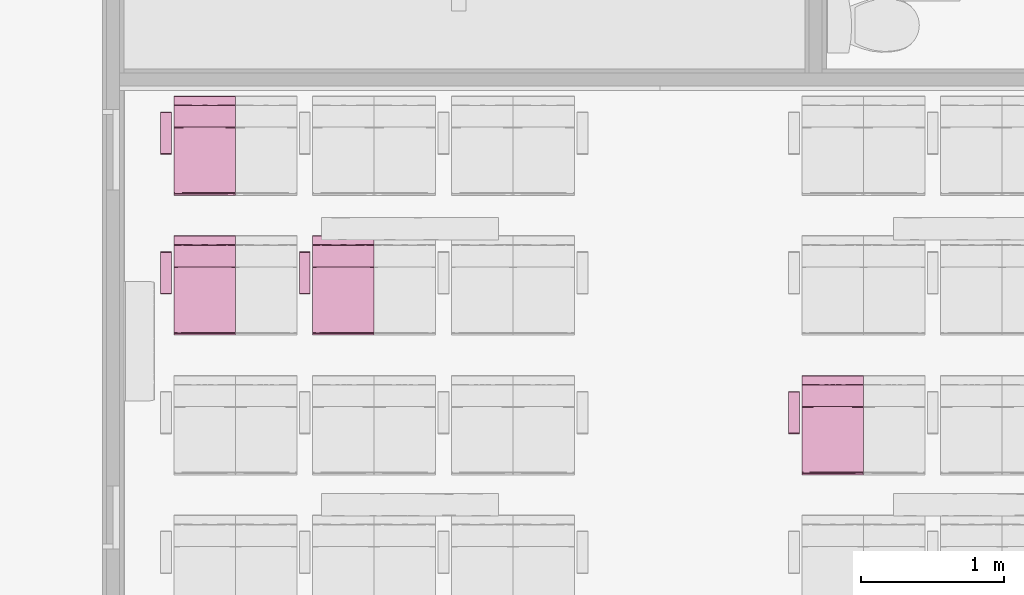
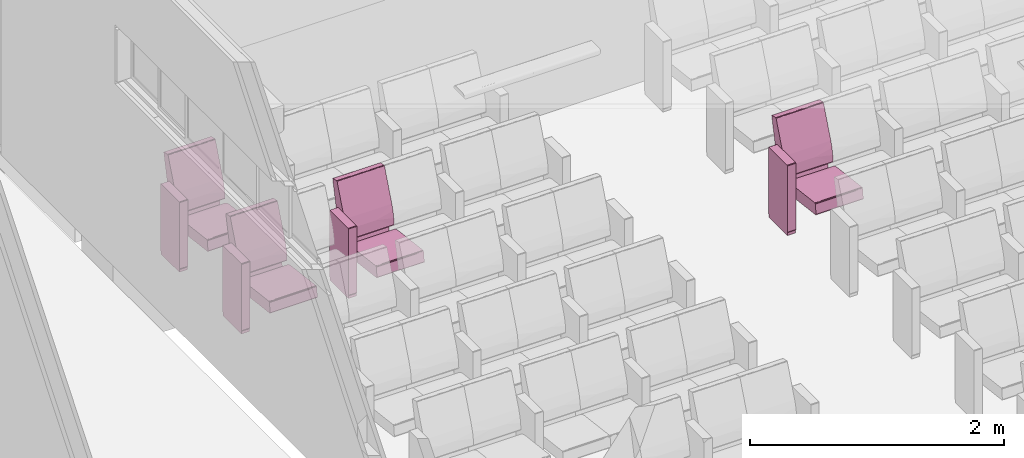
# One storey, part 115 of 155: 4 furnishings.
"""IFC2X3 building model written with IfcOpenShell, lengths in metres."""

from ifc_helpers import new_model, entity, si_unit, converted_unit, derived_unit, direction, frame, origin, place, context, subcontext, project, spatial, faceted_brep, source, transform, mapped, material, material_list, type_object, type_shapes, element, save


model = new_model("IFC2X3")

# Units and contexts
model_context = context("Model", 3, precision=1e-05, world=origin(), true_north=direction((6.12303176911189e-17, 1.0)))
body_context = subcontext(model_context, "Body", "Model", "MODEL_VIEW")
ifc_project = project(units=[si_unit("LENGTHUNIT", "METRE"), si_unit("AREAUNIT", "SQUARE_METRE"), si_unit("VOLUMEUNIT", "CUBIC_METRE"), converted_unit("PLANEANGLEUNIT", "DEGREE", entity("IfcRatioMeasure", 0.0174532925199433), si_unit("PLANEANGLEUNIT", "RADIAN"), dimensions=[0, 0, 0, 0, 0, 0, 0]), si_unit("MASSUNIT", "GRAM", prefix="KILO"), derived_unit("MASSDENSITYUNIT", [(si_unit("MASSUNIT", "GRAM", prefix="KILO"), 1), (si_unit("LENGTHUNIT", "METRE"), -3)]), si_unit("TIMEUNIT", "SECOND"), si_unit("FREQUENCYUNIT", "HERTZ"), si_unit("THERMODYNAMICTEMPERATUREUNIT", "DEGREE_CELSIUS"), derived_unit("THERMALTRANSMITTANCEUNIT", [(si_unit("MASSUNIT", "GRAM", prefix="KILO"), 1), (si_unit("THERMODYNAMICTEMPERATUREUNIT", "KELVIN"), -1), (si_unit("TIMEUNIT", "SECOND"), -3)]), derived_unit("VOLUMETRICFLOWRATEUNIT", [(si_unit("LENGTHUNIT", "METRE"), 3), (si_unit("TIMEUNIT", "SECOND"), -1)]), si_unit("ELECTRICCURRENTUNIT", "AMPERE"), si_unit("ELECTRICVOLTAGEUNIT", "VOLT"), si_unit("POWERUNIT", "WATT"), si_unit("FORCEUNIT", "NEWTON", prefix="KILO"), si_unit("ILLUMINANCEUNIT", "LUX"), si_unit("LUMINOUSFLUXUNIT", "LUMEN"), si_unit("LUMINOUSINTENSITYUNIT", "CANDELA"), derived_unit("USERDEFINED", [(si_unit("MASSUNIT", "GRAM", prefix="KILO"), -1), (si_unit("LENGTHUNIT", "METRE"), -2), (si_unit("TIMEUNIT", "SECOND"), 3), (si_unit("LUMINOUSFLUXUNIT", "LUMEN"), 1)]), derived_unit("LINEARVELOCITYUNIT", [(si_unit("LENGTHUNIT", "METRE"), 1), (si_unit("TIMEUNIT", "SECOND"), -1)]), si_unit("PRESSUREUNIT", "PASCAL"), derived_unit("USERDEFINED", [(si_unit("LENGTHUNIT", "METRE"), -2), (si_unit("MASSUNIT", "GRAM", prefix="KILO"), 1), (si_unit("TIMEUNIT", "SECOND"), -2)])], contexts=[model_context])

# Site, building, storey, space
site_placement = place(None, frame((26.9889013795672, -17.5624287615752, 0.0)))
site = spatial("IfcSite", under=ifc_project, at=site_placement, Name="Default", CompositionType="ELEMENT")
building_placement = place(site_placement, origin())
building = spatial("IfcBuilding", under=site, at=building_placement, Name="C. C. L. Monsenhor Antônio Sampaio", CompositionType="ELEMENT")
storey_placement = place(building_placement, frame((0.0, 0.0, 1.19999999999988)))
storey = spatial("IfcBuildingStorey", under=building, at=storey_placement, Name="Nível 1.2", CompositionType="ELEMENT", Elevation=1.19999999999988)
space_placement = place(storey_placement, origin())
space = spatial("IfcSpace", under=storey, at=space_placement, Name="94", CompositionType="ELEMENT", InteriorOrExteriorSpace="INTERNAL")

# Furnishings
ifc_material_1 = material(Name="V9 - V9 - Ecopelle_672_658")
ifc_material_2 = material(Name="V9 - V9 - RAL_9006_Grigio")
ifc_material_list_1 = material_list([ifc_material_1, ifc_material_2])
ifc_material_list_2 = material_list([ifc_material_1, ifc_material_2])
furniture_type = type_object("IfcFurnitureType", Name="Cadeira auditório", material=ifc_material_list_2)
shared_shape = source(origin(), body_context, "Body", "Brep", [
    faceted_brep([(0.405536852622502, 0.156348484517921, 0.339809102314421), (0.410560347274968, 0.131924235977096, 0.34246450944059), (0.405536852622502, 0.1075, 0.339809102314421), (0.405536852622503, 0.0537499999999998, 0.339809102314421), (0.410597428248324, 0.084060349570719, 0.342506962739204), (0.41079981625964, 0.0179166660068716, 0.342749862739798), (0.405536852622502, 0.215, 0.339809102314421), (0.410248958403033, 0.173608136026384, 0.342130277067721), (0.412515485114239, 0.185674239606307, 0.348529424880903), (0.412515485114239, 0.143333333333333, 0.348529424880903), (0.410560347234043, -0.131924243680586, 0.342464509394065), (0.405536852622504, -0.156348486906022, 0.33980910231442), (0.405536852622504, -0.1075, 0.33980910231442), (0.405536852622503, 0.0, 0.33980910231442), (0.41251548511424, 0.0, 0.348529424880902), (0.411170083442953, -0.0341365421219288, 0.343251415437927), (0.41059742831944, -0.0840603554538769, 0.342506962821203), (0.41251548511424, -0.143333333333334, 0.348529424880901), (0.412515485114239, 0.0358333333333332, 0.348529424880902), (0.412515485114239, 0.0716666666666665, 0.348529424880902), (0.405536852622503, -0.0537500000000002, 0.33980910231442), (0.412515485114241, -0.185674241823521, 0.348529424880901), (0.410799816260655, -0.215, 0.342749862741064), (0.410248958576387, -0.173608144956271, 0.342130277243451), (0.410799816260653, 0.215, 0.342749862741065), (0.412515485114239, 0.215, 0.348529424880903), (0.412515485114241, -0.215, 0.348529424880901), (0.41251548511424, -0.0716666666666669, 0.348529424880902), (0.405536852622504, -0.215, 0.33980910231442), (-0.0557900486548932, -0.215, 0.28268145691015), (-0.055790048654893, -0.168631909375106, 0.282681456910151), (-0.0557900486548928, -0.138065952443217, 0.282681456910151), (-0.0557900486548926, -0.107499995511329, 0.282681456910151), (-0.0557900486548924, -0.0806249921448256, 0.282681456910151), (-0.0557900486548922, -0.0537499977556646, 0.282681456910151), (-0.0557900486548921, -0.0268750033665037, 0.282681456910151), (-0.0557900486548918, 0.0, 0.28268145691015), (-0.0557900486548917, 0.0268749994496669, 0.282681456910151), (-0.0557900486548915, 0.0537499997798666, 0.282681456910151), (-0.0557900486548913, 0.0806250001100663, 0.282681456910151), (-0.0557900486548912, 0.107499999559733, 0.282681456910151), (-0.055790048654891, 0.134374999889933, 0.282681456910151), (-0.0557900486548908, 0.161250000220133, 0.282681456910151), (-0.0557900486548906, 0.1881249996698, 0.282681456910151), (-0.0557900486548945, 0.215, 0.28268145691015), (-0.0594787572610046, -0.0152829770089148, 0.283700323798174), (-0.0613666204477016, 0.0, 0.287029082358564), (-0.0594787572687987, 0.0179017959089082, 0.283700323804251), (-0.0613666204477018, 0.191815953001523, 0.287029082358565), (-0.0613666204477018, 0.215, 0.287029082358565), (-0.0594787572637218, 0.215, 0.283700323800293), (-0.0593340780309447, 0.0671874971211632, 0.283591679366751), (-0.0613666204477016, 0.030565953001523, 0.287029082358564), (-0.0594787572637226, -0.215, 0.283700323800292), (-0.0593337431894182, -0.184174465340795, 0.283591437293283), (-0.0613666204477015, -0.122263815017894, 0.287029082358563), (-0.0613666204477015, -0.0916978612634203, 0.287029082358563), (-0.0613666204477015, -0.0611319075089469, 0.287029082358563), (-0.0593023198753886, -0.0940625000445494, 0.283568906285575), (-0.059382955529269, 0.118123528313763, 0.28362747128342), (-0.0613666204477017, 0.122263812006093, 0.287029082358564), (-0.0597338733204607, 0.147039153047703, 0.283913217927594), (-0.0613666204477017, 0.168631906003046, 0.287029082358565), (-0.0592501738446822, 0.180223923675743, 0.283532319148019), (-0.0588783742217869, 0.0926899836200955, 0.283298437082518), (-0.0613666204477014, -0.215, 0.287029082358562), (-0.0613666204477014, -0.168631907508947, 0.287029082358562), (-0.0592576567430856, -0.123736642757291, 0.283537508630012), (-0.0594787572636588, -0.153348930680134, 0.283700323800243), (-0.0613666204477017, 0.0916978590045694, 0.287029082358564), (-0.0613666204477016, -0.0305659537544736, 0.287029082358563), (-0.059645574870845, -0.045848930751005, 0.283836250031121), (-0.0613666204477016, 0.0611319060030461, 0.287029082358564), (-0.069340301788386, -0.215, 0.351419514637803), (-0.0693403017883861, -0.143333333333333, 0.351419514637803), (-0.0693403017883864, -0.0716666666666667, 0.351419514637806), (-0.0693403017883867, 0.0, 0.351419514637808), (-0.069340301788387, 0.0716666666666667, 0.351419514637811), (-0.0693403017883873, 0.143333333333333, 0.351419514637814), (-0.0693403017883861, 0.215, 0.351419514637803), (-0.0597085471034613, 0.0, 0.37476954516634), (-0.0645543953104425, 0.112272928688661, 0.369803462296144), (-0.0653387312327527, 0.0126787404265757, 0.368680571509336), (-0.0681665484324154, -0.0888707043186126, 0.36292533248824), (-0.0655136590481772, -0.10440004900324, 0.368411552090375), (-0.0694879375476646, 0.0590582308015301, 0.356377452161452), (-0.0695056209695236, -0.125492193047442, 0.356093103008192), (-0.0597085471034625, -0.110316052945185, 0.374769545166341), (-0.0690003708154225, 0.132942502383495, 0.359900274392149), (-0.0672851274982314, 0.108066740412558, 0.365148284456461), (-0.0676206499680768, 0.215, 0.364371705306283), (-0.0686241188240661, 0.215, 0.356813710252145), (-0.0686241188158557, -0.214999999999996, 0.356813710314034), (-0.0686999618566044, 0.0358333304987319, 0.36116674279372), (-0.0694502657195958, -0.0358333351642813, 0.356863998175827), (-0.0676206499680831, -0.214999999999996, 0.364371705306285), (-0.0636645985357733, -0.214999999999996, 0.369570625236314), (-0.0597085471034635, -0.214999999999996, 0.374769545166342), (-0.0597085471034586, 0.215, 0.374769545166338), (-0.0636645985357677, 0.215, 0.36957062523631), (-0.0597085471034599, 0.110316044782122, 0.374769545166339), (-0.0324117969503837, 0.215, 0.390639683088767), (-0.0324117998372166, 0.0436847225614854, 0.39063968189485), (-0.0018793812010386, 0.215, 0.398686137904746), (-0.041847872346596, -0.0856576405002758, 0.386239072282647), (-0.0324117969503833, -0.215, 0.390639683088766), (-0.00187938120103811, -0.215, 0.398686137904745), (-0.00187938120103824, -0.102488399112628, 0.398686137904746), (-0.0219042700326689, -0.0570631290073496, 0.394412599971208), (-0.00187938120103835, 0.0, 0.398686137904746), (0.392202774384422, 0.215, 0.447486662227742), (0.392202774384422, -0.215, 0.447486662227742), (0.392202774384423, -0.156349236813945, 0.447486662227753), (0.392202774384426, -0.107499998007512, 0.447486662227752), (0.392202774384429, -0.0537500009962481, 0.44748666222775), (0.392202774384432, 0.0, 0.447486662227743), (0.392202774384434, 0.0537499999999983, 0.447486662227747), (0.392202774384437, 0.107499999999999, 0.447486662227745), (0.392202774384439, 0.156349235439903, 0.447486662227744), (0.398104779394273, -0.131924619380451, 0.445856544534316), (0.401125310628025, -0.0976984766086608, 0.440530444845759), (0.397860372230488, -0.0827732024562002, 0.446039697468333), (0.401125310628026, -0.215000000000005, 0.440530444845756), (0.401125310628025, -0.156349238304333, 0.440530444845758), (0.397373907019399, -0.173462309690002, 0.446363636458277), (0.398104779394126, -0.215000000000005, 0.445856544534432), (0.397860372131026, 0.0827731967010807, 0.446039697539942), (0.398104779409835, 0.131924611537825, 0.445856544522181), (0.398104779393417, -0.0237489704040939, 0.445856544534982), (0.398104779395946, 0.0268749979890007, 0.445856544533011), (0.401125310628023, 0.0488492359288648, 0.440530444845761), (0.401125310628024, -0.0488492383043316, 0.440530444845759), (0.398774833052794, 0.173462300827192, 0.445271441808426), (0.401125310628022, 0.097698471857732, 0.440530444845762), (0.401125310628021, 0.215, 0.440530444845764), (0.39810477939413, 0.215, 0.445856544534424), (0.401125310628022, 0.156349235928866, 0.440530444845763), (0.401125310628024, 0.0, 0.44053044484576)], [[[0, 1, 2]], [[3, 4, 5]], [[6, 7, 0]], [[7, 8, 9]], [[10, 11, 12]], [[3, 5, 13]], [[14, 15, 5]], [[16, 17, 10]], [[9, 1, 7]], [[18, 5, 4]], [[4, 9, 19, 18]], [[9, 4, 1]], [[2, 1, 4]], [[13, 15, 20]], [[21, 22, 23]], [[5, 18, 14]], [[24, 25, 8]], [[22, 21, 26]], [[24, 7, 6]], [[23, 11, 10]], [[20, 15, 16]], [[3, 2, 4]], [[14, 27, 15]], [[5, 15, 13]], [[27, 17, 16]], [[10, 12, 16]], [[21, 23, 17]], [[20, 16, 12]], [[15, 27, 16]], [[7, 1, 0]], [[28, 11, 23]], [[8, 7, 24]], [[23, 10, 17]], [[28, 23, 22]], [[28, 29, 30, 31, 32, 33, 34, 35, 36, 37, 38, 39, 40, 41, 42, 43, 44, 6, 0, 2, 3, 13, 20, 12, 11]], [[45, 46, 47]], [[48, 49, 50]], [[51, 47, 52]], [[29, 53, 54]], [[55, 56, 57, 58]], [[59, 60, 61]], [[61, 62, 63]], [[51, 64, 39]], [[65, 66, 54]], [[31, 67, 32]], [[45, 47, 38, 37, 36, 35]], [[68, 31, 30]], [[43, 50, 44]], [[63, 42, 61]], [[48, 50, 63]], [[64, 69, 59]], [[68, 54, 66]], [[63, 62, 48]], [[50, 43, 63]], [[67, 55, 58]], [[61, 42, 41]], [[45, 70, 46]], [[55, 68, 66]], [[71, 33, 58]], [[71, 57, 70]], [[41, 40, 59]], [[60, 62, 61]], [[71, 35, 34, 33]], [[35, 71, 45]], [[47, 46, 52]], [[45, 71, 70]], [[58, 57, 71]], [[32, 58, 33]], [[31, 68, 67]], [[54, 68, 30]], [[29, 54, 30]], [[54, 53, 65]], [[55, 67, 68]], [[32, 67, 58]], [[51, 52, 72, 69]], [[43, 42, 63]], [[41, 59, 61]], [[47, 51, 38]], [[40, 39, 64]], [[38, 51, 39]], [[69, 60, 59]], [[69, 64, 51]], [[40, 64, 59]], [[65, 73, 74, 75, 76, 77, 78, 79, 49, 48, 62, 60, 69, 72, 52, 46, 70, 57, 56, 55, 66]], [[80, 81, 82]], [[82, 83, 84]], [[78, 77, 76, 85]], [[86, 75, 74]], [[84, 80, 82]], [[80, 84, 87]], [[88, 89, 90]], [[91, 79, 78]], [[74, 73, 92]], [[85, 88, 91]], [[81, 89, 82]], [[93, 94, 83]], [[94, 86, 83]], [[85, 76, 94]], [[92, 86, 74]], [[85, 94, 93]], [[83, 92, 95]], [[75, 94, 76]], [[93, 83, 82]], [[95, 96, 84]], [[88, 85, 93]], [[96, 97, 87]], [[98, 99, 100]], [[78, 85, 91]], [[89, 88, 93]], [[90, 91, 88]], [[93, 82, 89]], [[81, 99, 89]], [[99, 90, 89]], [[100, 81, 80]], [[100, 99, 81]], [[83, 86, 92]], [[75, 86, 94]], [[95, 84, 83]], [[87, 84, 96]], [[101, 102, 103]], [[104, 80, 87, 97]], [[105, 106, 107]], [[107, 108, 105]], [[103, 102, 109]], [[104, 102, 80]], [[104, 108, 102]], [[98, 102, 101]], [[105, 104, 97]], [[105, 108, 104]], [[102, 98, 100, 80]], [[109, 108, 107]], [[109, 102, 108]], [[110, 103, 109, 107, 106, 111, 112, 113, 114, 115, 116, 117, 118]], [[119, 120, 121]], [[122, 123, 124]], [[111, 125, 124]], [[117, 116, 126]], [[124, 119, 112]], [[113, 112, 119]], [[127, 118, 117]], [[115, 114, 128, 129, 116]], [[129, 130, 126]], [[121, 131, 128]], [[127, 132, 118]], [[110, 118, 132]], [[127, 126, 133]], [[119, 124, 123]], [[134, 135, 132]], [[136, 132, 127]], [[120, 119, 123]], [[133, 136, 127]], [[137, 130, 129, 128, 131]], [[126, 127, 117]], [[130, 133, 126]], [[113, 119, 121]], [[129, 126, 116]], [[128, 114, 121]], [[114, 113, 121]], [[131, 121, 120]], [[111, 124, 112]], [[124, 125, 122]], [[134, 132, 136]], [[132, 135, 110]], [[19, 9, 8, 25, 134, 136, 133, 130, 137, 131, 120, 123, 122, 26, 21, 17, 27, 14, 18]], [[65, 53, 29, 28, 22, 26, 122, 125, 111, 106, 105, 97, 96, 95, 92, 73]], [[98, 101, 103, 110, 135, 134, 25, 24, 6, 44, 50, 49, 79, 91, 90, 99]]]),
    faceted_brep([(0.123144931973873, -0.283972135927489, 0.673627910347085), (0.12334838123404, -0.259944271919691, 0.6734355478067), (0.119812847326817, -0.27, 0.674900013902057), (0.124812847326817, -0.27, 0.669900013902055), (0.12334838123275, -0.232, 0.673435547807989), (0.119812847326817, -0.232, 0.674900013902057), (0.124812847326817, -0.308, 0.669900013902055), (0.119812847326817, -0.308, 0.674900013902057), (0.124812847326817, -0.249888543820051, 0.669900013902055), (0.124812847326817, -0.232, 0.669900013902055), (0.12334838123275, -0.308, 0.673435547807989), (0.124812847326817, -0.27, 0.035), (0.124812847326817, -0.232, 0.035), (0.124812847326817, -0.308, 0.0350000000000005), (0.123540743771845, -0.283972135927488, 0.0316679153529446), (0.12334838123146, -0.25994427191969, 0.0314644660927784), (0.119812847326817, -0.27, 0.0300000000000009), (0.12334838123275, -0.232, 0.0314644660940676), (0.119812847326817, -0.308, 0.0300000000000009), (0.119812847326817, -0.249888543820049, 0.030000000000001), (0.119812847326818, -0.232, 0.030000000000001), (0.123348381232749, -0.308, 0.0314644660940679), (-0.167179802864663, -0.308, 0.0300000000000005), (-0.167179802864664, -0.27, 0.0300000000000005), (-0.167179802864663, -0.232, 0.0300000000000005), (-0.17051188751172, -0.283972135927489, 0.0312721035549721), (-0.170715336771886, -0.25994427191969, 0.0314644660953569), (-0.172179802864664, -0.27, 0.0350000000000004), (-0.170715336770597, -0.232, 0.0314644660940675), (-0.172179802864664, -0.308, 0.0350000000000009), (-0.172179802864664, -0.24988854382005, 0.0350000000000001), (-0.172179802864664, -0.232, 0.0349999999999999), (-0.170715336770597, -0.308, 0.0314644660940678), (-0.172179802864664, -0.308, 0.669900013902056), (-0.172179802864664, -0.27, 0.669900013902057), (-0.172179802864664, -0.232, 0.669900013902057), (-0.170907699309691, -0.283972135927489, 0.673232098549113), (-0.170715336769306, -0.259944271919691, 0.673435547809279), (-0.167179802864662, -0.27, 0.674900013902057), (-0.170715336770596, -0.232, 0.67343554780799), (-0.167179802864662, -0.308, 0.674900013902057), (-0.167179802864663, -0.249888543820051, 0.674900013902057), (-0.167179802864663, -0.232, 0.674900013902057), (-0.170715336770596, -0.308, 0.67343554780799)], [[[0, 1, 2]], [[1, 0, 3]], [[1, 4, 5, 2]], [[6, 3, 0]], [[7, 0, 2]], [[4, 1, 3, 8, 9]], [[10, 0, 7]], [[0, 10, 6]], [[11, 12, 9, 8, 3, 6, 13]], [[14, 15, 11]], [[15, 14, 16]], [[15, 17, 12, 11]], [[18, 16, 14]], [[13, 14, 11]], [[17, 15, 16, 19, 20]], [[21, 14, 13]], [[14, 21, 18]], [[18, 22, 23, 24, 20, 19, 16]], [[25, 26, 23]], [[26, 25, 27]], [[26, 28, 24, 23]], [[29, 27, 25]], [[22, 25, 23]], [[28, 26, 27, 30, 31]], [[32, 25, 22]], [[25, 32, 29]], [[27, 29, 33, 34, 35, 31, 30]], [[36, 37, 34]], [[37, 36, 38]], [[37, 39, 35, 34]], [[40, 38, 36]], [[33, 36, 34]], [[39, 37, 38, 41, 42]], [[43, 36, 33]], [[36, 43, 40]], [[40, 7, 2, 5, 42, 41, 38]], [[35, 39, 42, 5, 4, 9, 12, 17, 20, 24, 28, 31]], [[29, 32, 22, 18, 21, 13, 6, 10, 7, 40, 43, 33]]]),
    faceted_brep([(-0.0695672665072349, 0.215, 0.476508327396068), (-0.074405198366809, 0.0524423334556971, 0.506888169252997), (-0.0655618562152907, 0.215, 0.415143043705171), (-0.0744051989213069, -0.0780075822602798, 0.506888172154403), (-0.0655618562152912, 0.0, 0.415143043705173), (-0.0655618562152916, -0.215, 0.415143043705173), (-0.0655618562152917, -0.1075, 0.415143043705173), (-0.0655618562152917, 0.1075, 0.415143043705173), (-0.0695672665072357, -0.215, 0.476508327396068), (-0.081111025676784, -0.215, 0.536911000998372), (-0.0811110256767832, 0.215, 0.536911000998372), (-0.100016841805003, 0.215, 0.595428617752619), (-0.100016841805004, 0.0, 0.595428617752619), (-0.100016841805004, -0.215, 0.595428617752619), (-0.0698317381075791, 0.0358333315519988, 0.406528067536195), (-0.0792851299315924, 0.0, 0.404772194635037), (-0.0792851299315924, 0.0716666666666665, 0.404772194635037), (-0.0792851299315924, -0.215, 0.404772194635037), (-0.0792851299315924, -0.143333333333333, 0.404772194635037), (-0.0698317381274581, -0.215, 0.406528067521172), (-0.0792851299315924, 0.143333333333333, 0.404772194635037), (-0.0792851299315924, 0.215, 0.404772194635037), (-0.0698317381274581, 0.215, 0.406528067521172), (-0.0694171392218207, 0.140338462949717, 0.406857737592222), (-0.0708115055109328, -0.0356393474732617, 0.405868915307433), (-0.0703502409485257, -0.107500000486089, 0.406159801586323), (-0.0792851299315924, -0.0716666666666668, 0.404772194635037), (-0.163837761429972, -0.215, 0.420611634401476), (-0.163837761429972, 0.215, 0.420611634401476), (-0.123612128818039, 0.215, 0.235917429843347), (-0.123612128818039, -0.215, 0.235917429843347), (-0.142059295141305, -0.215, 0.231899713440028), (-0.142059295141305, 0.215, 0.231899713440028), (-0.235388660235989, -0.215, 0.652619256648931), (-0.235388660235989, 0.215, 0.652619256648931), (-0.28428001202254, -0.215, 0.873004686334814), (-0.284280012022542, -0.191295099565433, 0.873004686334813), (-0.284280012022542, -0.161249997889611, 0.873004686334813), (-0.284280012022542, -0.134374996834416, 0.873004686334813), (-0.284280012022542, -0.107499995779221, 0.873004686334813), (-0.284280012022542, -0.0806249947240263, 0.873004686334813), (-0.284280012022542, -0.0537499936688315, 0.873004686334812), (-0.284280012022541, -0.0268749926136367, 0.873004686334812), (-0.28428001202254, 0.0, 0.873004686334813), (-0.284280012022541, 0.0268749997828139, 0.873004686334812), (-0.284280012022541, 0.0537500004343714, 0.873004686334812), (-0.284280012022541, 0.0806250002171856, 0.873004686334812), (-0.284280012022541, 0.1075, 0.873004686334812), (-0.284280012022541, 0.134374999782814, 0.873004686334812), (-0.28428001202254, 0.161249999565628, 0.873004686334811), (-0.28428001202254, 0.191295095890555, 0.873004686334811), (-0.28428001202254, 0.215, 0.873004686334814), (-0.283746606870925, 0.0872244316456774, 0.876674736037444), (-0.283504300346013, 0.0569644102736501, 0.877068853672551), (-0.283567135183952, -0.15546176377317, 0.876973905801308), (-0.283641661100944, -0.12093750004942, 0.87685511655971), (-0.283567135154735, 0.155461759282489, 0.876973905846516), (-0.28330409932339, 0.185293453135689, 0.877344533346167), (-0.283641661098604, 0.0179166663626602, 0.876855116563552), (-0.283641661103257, -0.0136463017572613, 0.876855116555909), (-0.280514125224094, -0.0358333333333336, 0.879190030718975), (-0.280514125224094, 0.0, 0.879190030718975), (-0.280514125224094, 0.0358333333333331, 0.879190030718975), (-0.280514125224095, -0.143333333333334, 0.879190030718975), (-0.280514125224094, -0.1075, 0.879190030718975), (-0.280514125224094, -0.071666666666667, 0.879190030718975), (-0.283746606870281, -0.0872244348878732, 0.876674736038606), (-0.280514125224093, 0.0716666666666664, 0.879190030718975), (-0.280514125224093, 0.1075, 0.879190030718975), (-0.283641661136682, 0.120937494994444, 0.876855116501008), (-0.280514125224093, 0.143333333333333, 0.879190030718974), (-0.283641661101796, 0.215, 0.876855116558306), (-0.283641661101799, -0.215, 0.876855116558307), (-0.283304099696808, -0.18529345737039, 0.877344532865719), (-0.280514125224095, -0.167590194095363, 0.879190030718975), (-0.280514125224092, 0.215, 0.879190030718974), (-0.280514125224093, 0.167590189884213, 0.879190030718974), (-0.280514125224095, -0.215, 0.879190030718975), (-0.283504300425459, -0.0569644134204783, 0.8770688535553), (-0.22111253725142, 0.215, 0.892176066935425), (-0.22111253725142, -0.215, 0.892176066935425), (-0.221112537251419, -0.191815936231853, 0.892176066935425), (-0.221112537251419, -0.161250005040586, 0.892176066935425), (-0.221112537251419, -0.134375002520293, 0.892176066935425), (-0.221112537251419, -0.1075, 0.892176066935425), (-0.221112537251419, -0.080624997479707, 0.892176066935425), (-0.221112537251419, -0.0537499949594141, 0.892176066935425), (-0.221112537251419, -0.0268750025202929, 0.892176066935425), (-0.221112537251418, 0.0, 0.892176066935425), (-0.221112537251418, 0.0268750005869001, 0.892176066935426), (-0.221112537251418, 0.05375000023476, 0.892176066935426), (-0.221112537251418, 0.0806249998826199, 0.892176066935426), (-0.221112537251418, 0.10749999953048, 0.892176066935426), (-0.221112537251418, 0.13437499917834, 0.892176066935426), (-0.221112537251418, 0.16124999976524, 0.892176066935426), (-0.221112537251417, 0.19181594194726, 0.892176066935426), (-0.215419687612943, 0.0, 0.889191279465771), (-0.215419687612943, 0.0358333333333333, 0.889191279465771), (-0.217722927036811, 0.0162353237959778, 0.891719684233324), (-0.217722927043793, -0.0134375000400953, 0.891719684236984), (-0.215419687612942, -0.191815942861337, 0.889191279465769), (-0.215419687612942, -0.168631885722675, 0.889191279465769), (-0.217722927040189, -0.182482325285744, 0.891719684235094), (-0.217722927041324, -0.215, 0.891719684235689), (-0.215419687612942, -0.215, 0.889191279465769), (-0.215419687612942, -0.1075, 0.88919127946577), (-0.215419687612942, -0.0716666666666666, 0.88919127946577), (-0.217722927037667, -0.0912646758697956, 0.891719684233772), (-0.217722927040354, -0.120937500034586, 0.89171968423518), (-0.215419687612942, -0.143333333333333, 0.88919127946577), (-0.215419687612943, 0.191815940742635, 0.889191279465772), (-0.215419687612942, 0.215, 0.889191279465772), (-0.217722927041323, 0.215, 0.89171968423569), (-0.217722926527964, 0.190103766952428, 0.891719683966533), (-0.217722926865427, 0.0912646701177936, 0.891719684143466), (-0.217816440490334, 0.0647800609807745, 0.891767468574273), (-0.215419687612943, 0.0716666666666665, 0.889191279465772), (-0.217816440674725, -0.0647800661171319, 0.891767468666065), (-0.2179983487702, -0.0390825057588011, 0.891853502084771), (-0.217558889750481, -0.155982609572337, 0.891629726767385), (-0.217722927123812, 0.120937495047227, 0.891719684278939), (-0.215419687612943, 0.16863188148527, 0.889191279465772), (-0.215419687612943, 0.143333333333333, 0.889191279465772), (-0.217558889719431, 0.15598260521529, 0.891629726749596), (-0.215419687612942, -0.0358333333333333, 0.889191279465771), (-0.215419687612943, 0.1075, 0.889191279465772), (-0.218257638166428, 0.0404491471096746, 0.891961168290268)], [[[0, 1, 2]], [[1, 3, 4]], [[3, 5, 6, 4]], [[1, 4, 7, 2]], [[5, 3, 8]], [[8, 3, 9]], [[0, 10, 1]], [[11, 12, 1]], [[3, 13, 9]], [[3, 12, 13]], [[11, 1, 10]], [[3, 1, 12]], [[14, 15, 16]], [[17, 18, 19]], [[20, 21, 22]], [[2, 23, 22]], [[14, 7, 4]], [[14, 24, 15]], [[6, 25, 24]], [[22, 23, 20]], [[14, 23, 7]], [[19, 6, 5]], [[4, 24, 14]], [[16, 23, 14]], [[16, 20, 23]], [[26, 25, 18]], [[25, 19, 18]], [[15, 24, 26]], [[23, 2, 7]], [[19, 25, 6]], [[26, 24, 25]], [[6, 24, 4]], [[15, 26, 18, 17, 27, 28, 21, 20, 16]], [[29, 28, 27, 30]], [[30, 31, 32, 29]], [[32, 31, 33, 34]], [[34, 33, 35, 36, 37, 38, 39, 40, 41, 42, 43, 44, 45, 46, 47, 48, 49, 50, 51]], [[52, 46, 53]], [[38, 54, 55]], [[56, 57, 49]], [[58, 59, 60, 61, 62]], [[63, 64, 55]], [[64, 65, 66]], [[52, 67, 68]], [[69, 70, 56]], [[49, 57, 50]], [[38, 55, 39]], [[71, 51, 50]], [[36, 35, 72]], [[59, 58, 44, 43, 42]], [[73, 74, 54]], [[55, 66, 39]], [[75, 57, 76]], [[77, 74, 73]], [[69, 52, 68]], [[37, 36, 73]], [[54, 74, 63]], [[56, 76, 57]], [[36, 72, 73]], [[75, 71, 57]], [[70, 76, 56]], [[52, 69, 47]], [[48, 47, 69]], [[42, 78, 59]], [[66, 55, 64]], [[50, 57, 71]], [[73, 54, 37]], [[77, 73, 72]], [[48, 69, 56]], [[56, 49, 48]], [[69, 68, 70]], [[53, 46, 45, 44]], [[58, 62, 53]], [[53, 44, 58]], [[38, 37, 54]], [[63, 55, 54]], [[78, 66, 65]], [[78, 40, 66]], [[67, 52, 53]], [[78, 42, 41, 40]], [[65, 60, 78]], [[59, 78, 60]], [[52, 47, 46]], [[40, 39, 66]], [[62, 67, 53]], [[79, 75, 76, 70, 68, 67, 62, 61, 60, 65, 64, 63, 74, 77, 80, 81, 82, 83, 84, 85, 86, 87, 88, 89, 90, 91, 92, 93, 94, 95]], [[96, 97, 98, 99]], [[100, 101, 102, 103, 104]], [[105, 106, 107, 108, 109]], [[110, 111, 112]], [[113, 112, 95]], [[114, 115, 116]], [[117, 118, 86]], [[82, 119, 83]], [[102, 82, 81, 80, 103]], [[112, 79, 95]], [[108, 107, 85, 84, 83]], [[88, 87, 99, 98, 89]], [[119, 101, 109]], [[93, 92, 120]], [[117, 85, 107]], [[113, 121, 110]], [[122, 121, 123]], [[113, 94, 123]], [[124, 99, 118]], [[122, 123, 120]], [[108, 119, 109]], [[113, 110, 112]], [[102, 101, 119]], [[119, 108, 83]], [[114, 125, 120]], [[123, 94, 93]], [[93, 120, 123]], [[114, 120, 92]], [[122, 120, 125]], [[117, 107, 106]], [[114, 92, 91]], [[116, 125, 114]], [[115, 91, 90]], [[85, 117, 86]], [[126, 89, 98]], [[117, 106, 124]], [[118, 99, 87]], [[124, 96, 99]], [[97, 116, 115]], [[97, 115, 126]], [[86, 118, 87]], [[124, 118, 117]], [[91, 115, 114]], [[115, 90, 126]], [[89, 126, 90]], [[97, 126, 98]], [[82, 102, 119]], [[94, 113, 95]], [[121, 113, 123]], [[11, 111, 110, 121, 122, 125, 116, 97, 96, 124, 106, 105, 109, 101, 100, 104, 13, 12]], [[27, 17, 19, 5, 8, 9, 13, 104, 103, 80, 77, 72, 35, 33, 31, 30]], [[51, 71, 75, 79, 112, 111, 11, 10, 0, 2, 22, 21, 28, 29, 32, 34]]]),
    faceted_brep([(0.120312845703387, -0.2335, 0.0), (0.120312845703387, -0.2335, 0.0260000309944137), (0.120312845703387, -0.249500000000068, 0.0260000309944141), (0.120312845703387, -0.27, 0.0260000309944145), (0.120312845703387, -0.3065, 0.0260000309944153), (0.120312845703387, -0.3065, 0.0), (-0.167687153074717, -0.3065, 0.0), (-0.167687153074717, -0.2335, 0.0), (-0.167687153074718, -0.27, 0.0260000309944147), (-0.167687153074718, -0.2335, 0.0260000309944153), (-0.167687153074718, -0.3065, 0.0260000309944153), (-0.166521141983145, -0.233500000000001, 0.0288228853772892), (-0.166521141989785, -0.257382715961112, 0.0288228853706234), (-0.163702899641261, -0.233500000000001, 0.0300000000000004), (-0.163702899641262, -0.3065, 0.0300000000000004), (-0.16652114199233, -0.279986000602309, 0.0288228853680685), (-0.166521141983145, -0.3065, 0.0288228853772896), (-0.163702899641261, -0.27, 0.0300000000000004), (0.116297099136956, -0.3065, 0.0300000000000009), (0.116297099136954, -0.269999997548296, 0.0300000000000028), (0.116297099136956, -0.2335, 0.0300000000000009), (0.119033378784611, -0.283124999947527, 0.0289323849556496), (0.1191357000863, -0.2335, 0.0288340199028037), (0.119135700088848, -0.259750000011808, 0.0288340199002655), (0.119135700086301, -0.3065, 0.0288340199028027)], [[[0, 1, 2, 3, 4, 5]], [[0, 5, 6, 7]], [[8, 9, 7, 6, 10]], [[11, 12, 13]], [[14, 15, 16]], [[15, 14, 17, 13, 12]], [[9, 8, 12, 11]], [[16, 15, 10]], [[8, 10, 15, 12]], [[14, 18, 19, 20, 13, 17]], [[21, 4, 3]], [[22, 20, 19, 23]], [[3, 2, 1, 22, 23]], [[24, 21, 18]], [[21, 3, 23]], [[18, 21, 19]], [[21, 24, 4]], [[21, 23, 19]], [[6, 5, 4, 24, 18, 14, 16, 10]], [[7, 9, 11, 13, 20, 22, 1, 0]]]),
])
type_shapes(furniture_type, [shared_shape])
furnishing_1_placement = place(space_placement, frame((-9.03594929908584, -12.3788058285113, 0.0), z_axis=(0.0, 0.0, 1.0), x_axis=(0.0, -1.0, 0.0)))
element("IfcFurnishingElement", 1, at=furnishing_1_placement, inside=space, type_object=furniture_type, material=ifc_material_list_1, Name="cadeira auditório pcd:Cadeira auditório", ObjectType="Cadeira auditório", context=body_context, shape_type="MappedRepresentation", body=[
    mapped(shared_shape, transform((0.0, 0.0, 0.0), scale=1.0)),
])
ifc_material_list_3 = material_list([ifc_material_1, ifc_material_2])
furnishing_2_placement = place(space_placement, frame((-12.4559492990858, -11.4021989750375, 0.0), z_axis=(0.0, 0.0, 1.0), x_axis=(0.0, -1.0, 0.0)))
element("IfcFurnishingElement", 2, at=furnishing_2_placement, inside=space, type_object=furniture_type, material=ifc_material_list_3, Name="cadeira auditório pcd:Cadeira auditório", ObjectType="Cadeira auditório", context=body_context, shape_type="MappedRepresentation", body=[
    mapped(shared_shape, transform((0.0, 0.0, 0.0), scale=1.0)),
])
ifc_material_list_4 = material_list([ifc_material_1, ifc_material_2])
furnishing_3_placement = place(space_placement, frame((-13.4259492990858, -11.4021989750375, 0.0), z_axis=(0.0, 0.0, 1.0), x_axis=(0.0, -1.0, 0.0)))
element("IfcFurnishingElement", 3, at=furnishing_3_placement, inside=space, type_object=furniture_type, material=ifc_material_list_4, Name="cadeira auditório pcd:Cadeira auditório", ObjectType="Cadeira auditório", context=body_context, shape_type="MappedRepresentation", body=[
    mapped(shared_shape, transform((0.0, 0.0, 0.0), scale=1.0)),
])
ifc_material_list_5 = material_list([ifc_material_1, ifc_material_2])
furnishing_4_placement = place(space_placement, frame((-13.4259492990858, -10.4255921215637, 0.0), z_axis=(0.0, 0.0, 1.0), x_axis=(0.0, -1.0, 0.0)))
element("IfcFurnishingElement", 4, at=furnishing_4_placement, inside=space, type_object=furniture_type, material=ifc_material_list_5, Name="cadeira auditório pcd:Cadeira auditório", ObjectType="Cadeira auditório", context=body_context, shape_type="MappedRepresentation", body=[
    mapped(shared_shape, transform((0.0, 0.0, 0.0), scale=1.0)),
])

save(model, "model.ifc")
